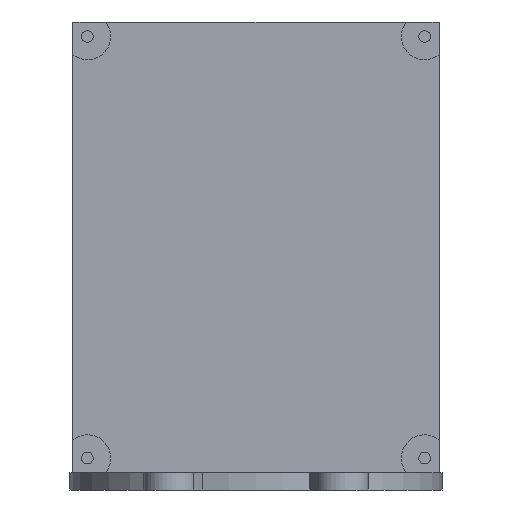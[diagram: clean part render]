
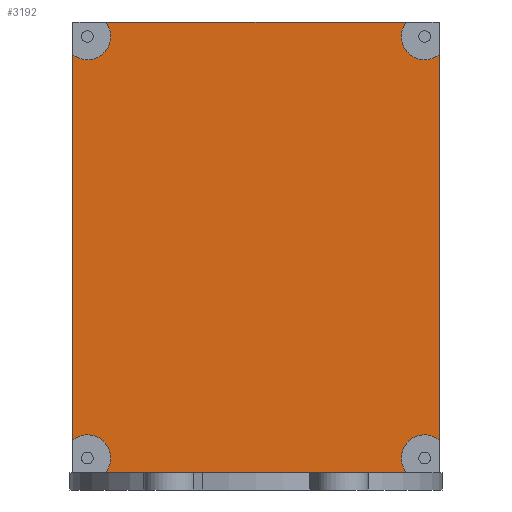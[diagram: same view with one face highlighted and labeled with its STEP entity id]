
A CAD part, front view. The second image highlights one B-rep face of the part: STEP entity #3192.
In plain terms, the highlighted planar face has unit normal (0, -1, 0).
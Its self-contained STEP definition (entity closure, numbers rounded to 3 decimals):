
#119=CIRCLE('',#3374,4.);
#121=CIRCLE('',#3378,4.);
#123=CIRCLE('',#3382,4.);
#125=CIRCLE('',#3386,4.);
#218=PLANE('',#3392);
#387=FACE_OUTER_BOUND('',#591,.T.);
#591=EDGE_LOOP('',(#2893,#2894,#2895,#2896,#2897,#2898,#2899,#2900));
#822=LINE('',#5929,#1086);
#851=LINE('',#6042,#1115);
#857=LINE('',#6052,#1121);
#858=LINE('',#6054,#1122);
#1086=VECTOR('',#3849,10.);
#1115=VECTOR('',#3986,10.);
#1121=VECTOR('',#3996,10.);
#1122=VECTOR('',#3999,10.);
#1538=VERTEX_POINT('',#5926);
#1539=VERTEX_POINT('',#5928);
#1556=VERTEX_POINT('',#6000);
#1557=VERTEX_POINT('',#6001);
#1561=VERTEX_POINT('',#6013);
#1563=VERTEX_POINT('',#6021);
#1564=VERTEX_POINT('',#6022);
#1568=VERTEX_POINT('',#6034);
#1964=EDGE_CURVE('',#1538,#1539,#822,.T.);
#1996=EDGE_CURVE('',#1556,#1557,#119,.T.);
#2002=EDGE_CURVE('',#1561,#1539,#121,.T.);
#2006=EDGE_CURVE('',#1563,#1564,#123,.T.);
#2012=EDGE_CURVE('',#1538,#1568,#125,.T.);
#2016=EDGE_CURVE('',#1561,#1564,#851,.T.);
#2022=EDGE_CURVE('',#1568,#1556,#857,.T.);
#2023=EDGE_CURVE('',#1563,#1557,#858,.T.);
#2893=ORIENTED_EDGE('',*,*,#1996,.T.);
#2894=ORIENTED_EDGE('',*,*,#2023,.F.);
#2895=ORIENTED_EDGE('',*,*,#2006,.T.);
#2896=ORIENTED_EDGE('',*,*,#2016,.F.);
#2897=ORIENTED_EDGE('',*,*,#2002,.T.);
#2898=ORIENTED_EDGE('',*,*,#1964,.F.);
#2899=ORIENTED_EDGE('',*,*,#2012,.T.);
#2900=ORIENTED_EDGE('',*,*,#2022,.T.);
#3192=ADVANCED_FACE('',(#387),#218,.T.);
#3374=AXIS2_PLACEMENT_3D('',#6002,#3942,#3943);
#3378=AXIS2_PLACEMENT_3D('',#6014,#3954,#3955);
#3382=AXIS2_PLACEMENT_3D('',#6023,#3964,#3965);
#3386=AXIS2_PLACEMENT_3D('',#6035,#3976,#3977);
#3392=AXIS2_PLACEMENT_3D('',#6053,#3997,#3998);
#3849=DIRECTION('',(-1.,0.,0.));
#3942=DIRECTION('center_axis',(0.,1.,0.));
#3943=DIRECTION('ref_axis',(1.,0.,0.));
#3954=DIRECTION('center_axis',(0.,1.,0.));
#3955=DIRECTION('ref_axis',(1.,0.,0.));
#3964=DIRECTION('center_axis',(0.,1.,0.));
#3965=DIRECTION('ref_axis',(1.,0.,0.));
#3976=DIRECTION('center_axis',(0.,1.,0.));
#3977=DIRECTION('ref_axis',(1.,0.,0.));
#3986=DIRECTION('',(0.,0.,1.));
#3996=DIRECTION('',(0.,0.,1.));
#3997=DIRECTION('center_axis',(0.,-1.,0.));
#3998=DIRECTION('ref_axis',(1.,0.,0.));
#3999=DIRECTION('',(1.,0.,0.));
#5926=CARTESIAN_POINT('',(25.878,2.5,3.));
#5928=CARTESIAN_POINT('',(-25.878,2.5,3.));
#5929=CARTESIAN_POINT('',(-15.75,2.5,3.));
#6000=CARTESIAN_POINT('',(31.5,2.5,74.878));
#6001=CARTESIAN_POINT('',(25.878,2.5,80.5));
#6002=CARTESIAN_POINT('Origin',(29.,2.5,78.));
#6013=CARTESIAN_POINT('',(-31.5,2.5,8.622));
#6014=CARTESIAN_POINT('Origin',(-29.,2.5,5.5));
#6021=CARTESIAN_POINT('',(-25.878,2.5,80.5));
#6022=CARTESIAN_POINT('',(-31.5,2.5,74.878));
#6023=CARTESIAN_POINT('Origin',(-29.,2.5,78.));
#6034=CARTESIAN_POINT('',(31.5,2.5,8.622));
#6035=CARTESIAN_POINT('Origin',(29.,2.5,5.5));
#6042=CARTESIAN_POINT('',(-31.5,2.5,3.));
#6052=CARTESIAN_POINT('',(31.5,2.5,3.));
#6053=CARTESIAN_POINT('Origin',(-31.5,2.5,3.));
#6054=CARTESIAN_POINT('',(-15.75,2.5,80.5));
